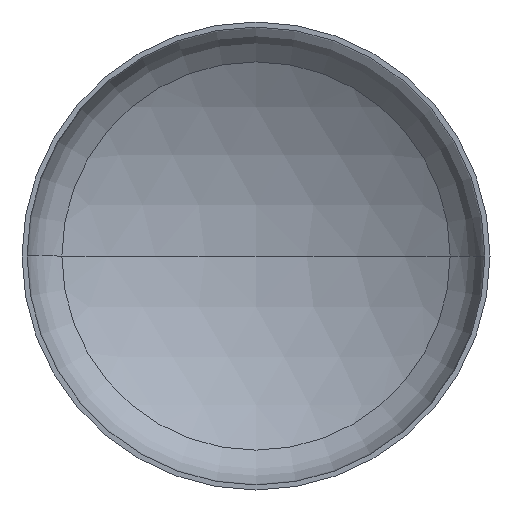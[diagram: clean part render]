
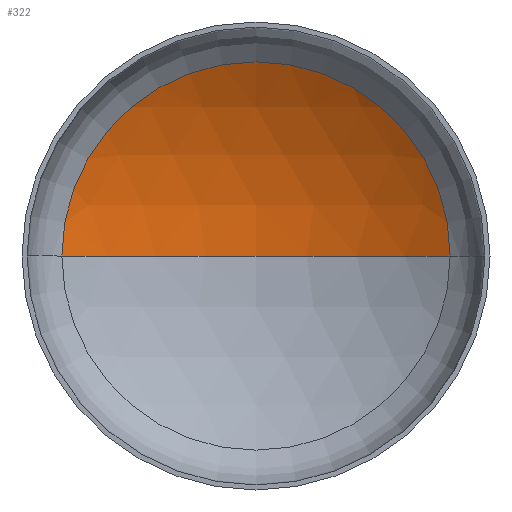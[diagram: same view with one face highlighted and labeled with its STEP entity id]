
A CAD part, front view. The second image highlights one B-rep face of the part: STEP entity #322.
In plain terms, the highlighted spherical face has radius 5600 mm.
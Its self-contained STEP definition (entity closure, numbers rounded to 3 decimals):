
#9 = AXIS2_PLACEMENT_3D ( 'NONE', #202, #199, #28 ) ;
#28 = DIRECTION ( 'NONE',  ( -1., 0., 0. ) ) ;
#39 = CIRCLE ( 'NONE', #60, 5600. ) ;
#43 = VERTEX_POINT ( 'NONE', #306 ) ;
#60 = AXIS2_PLACEMENT_3D ( 'NONE', #118, #116, #125 ) ;
#62 = AXIS2_PLACEMENT_3D ( 'NONE', #244, #88, #86 ) ;
#65 = AXIS2_PLACEMENT_3D ( 'NONE', #264, #261, #262 ) ;
#69 = ORIENTED_EDGE ( 'NONE', *, *, #133, .T. ) ;
#86 = DIRECTION ( 'NONE',  ( -1., 0., 0. ) ) ;
#88 = DIRECTION ( 'NONE',  ( 0., 0., -1. ) ) ;
#107 = VERTEX_POINT ( 'NONE', #287 ) ;
#116 = DIRECTION ( 'NONE',  ( 0., 0., 1. ) ) ;
#118 = CARTESIAN_POINT ( 'NONE',  ( 0., -3744.72, 0. ) ) ;
#125 = DIRECTION ( 'NONE',  ( 1., 0., 0. ) ) ;
#133 = EDGE_CURVE ( 'NONE', #43, #107, #308, .T. ) ;
#134 = EDGE_CURVE ( 'NONE', #156, #43, #233, .T. ) ;
#136 = EDGE_CURVE ( 'NONE', #156, #107, #39, .T. ) ;
#156 = VERTEX_POINT ( 'NONE', #296 ) ;
#180 = EDGE_LOOP ( 'NONE', ( #388, #281, #69 ) ) ;
#199 = DIRECTION ( 'NONE',  ( 0., 0., -1. ) ) ;
#202 = CARTESIAN_POINT ( 'NONE',  ( 0., -3744.72, 0. ) ) ;
#229 = FACE_OUTER_BOUND ( 'NONE', #180, .T. ) ;
#233 = CIRCLE ( 'NONE', #62, 5600. ) ;
#244 = CARTESIAN_POINT ( 'NONE',  ( 0., -3744.72, 0. ) ) ;
#261 = DIRECTION ( 'NONE',  ( 0., -1., 0. ) ) ;
#262 = DIRECTION ( 'NONE',  ( 1., 0., 0. ) ) ;
#264 = CARTESIAN_POINT ( 'NONE',  ( 0., 1043.429, 0. ) ) ;
#281 = ORIENTED_EDGE ( 'NONE', *, *, #134, .T. ) ;
#287 = CARTESIAN_POINT ( 'NONE',  ( -2904.071, 1043.429, 0. ) ) ;
#296 = CARTESIAN_POINT ( 'NONE',  ( 0., 1855.28, 0. ) ) ;
#306 = CARTESIAN_POINT ( 'NONE',  ( 2904.071, 1043.429, 0. ) ) ;
#308 = CIRCLE ( 'NONE', #65, 2904.071 ) ;
#322 = ADVANCED_FACE ( 'NONE', ( #229 ), #401, .F. ) ;
#388 = ORIENTED_EDGE ( 'NONE', *, *, #136, .F. ) ;
#401 = SPHERICAL_SURFACE ( 'NONE', #9, 5600. ) ;
